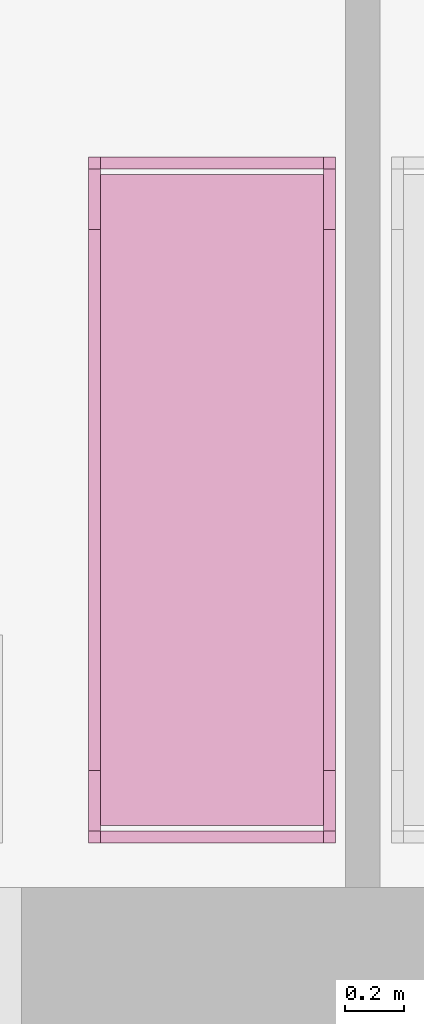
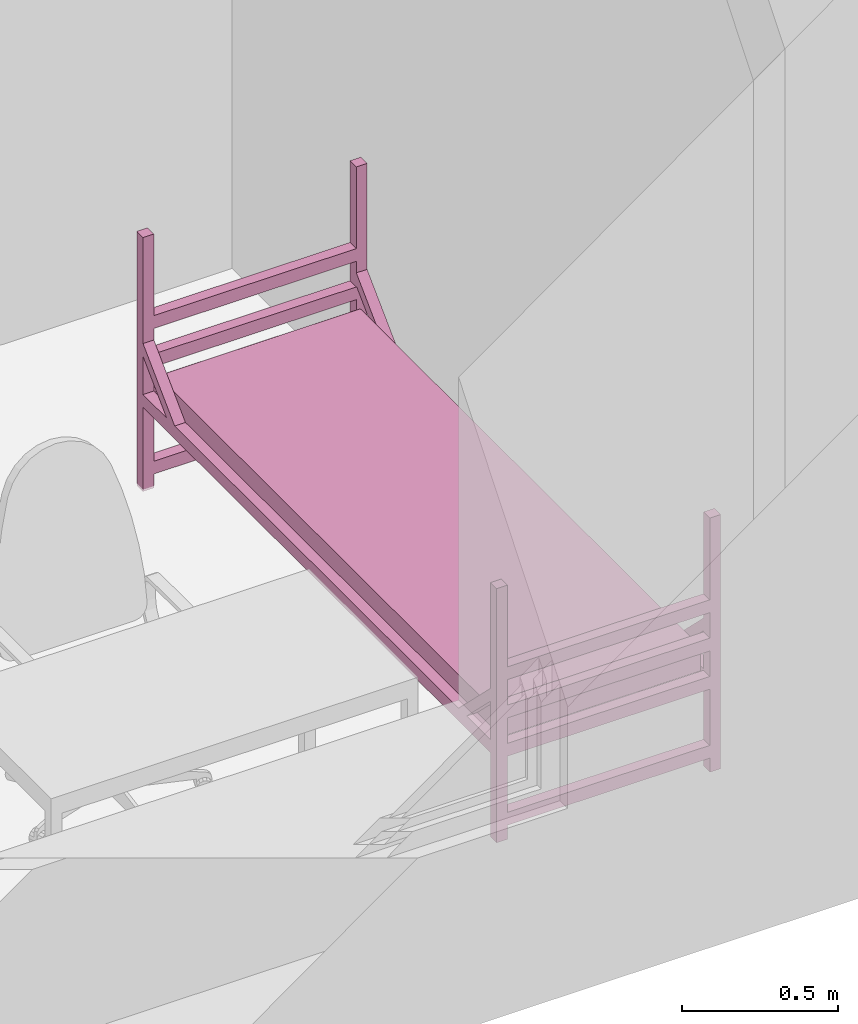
# One storey, part 29 of 46: 1 furnishing.
"""IFC2X3 building model written with IfcOpenShell, lengths in millimetres."""

from ifc_helpers import new_model, entity, si_unit, converted_unit, derived_unit, direction, frame, frame_2d, origin, place, context, subcontext, project, spatial, polyline, circle_curve, parameter, trimmed, segment, composite_curve, rectangle, outline, extrude, source, transform, mapped, material, type_object, type_shapes, element, save


model = new_model("IFC2X3")

# Units and contexts
model_context = context("Model", 3, precision=0.01, world=origin(), true_north=direction((6.12303176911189e-17, 1.0)))
body_context = subcontext(model_context, "Body", "Model", "MODEL_VIEW")
ifc_project = project(units=[si_unit("LENGTHUNIT", "METRE", prefix="MILLI"), si_unit("AREAUNIT", "SQUARE_METRE"), si_unit("VOLUMEUNIT", "CUBIC_METRE"), converted_unit("PLANEANGLEUNIT", "DEGREE", entity("IfcRatioMeasure", 0.0174532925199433), si_unit("PLANEANGLEUNIT", "RADIAN"), dimensions=[0, 0, 0, 0, 0, 0, 0]), si_unit("MASSUNIT", "GRAM", prefix="KILO"), derived_unit("MASSDENSITYUNIT", [(si_unit("MASSUNIT", "GRAM", prefix="KILO"), 1), (si_unit("LENGTHUNIT", "METRE"), -3)]), si_unit("TIMEUNIT", "SECOND"), si_unit("FREQUENCYUNIT", "HERTZ"), si_unit("THERMODYNAMICTEMPERATUREUNIT", "DEGREE_CELSIUS"), derived_unit("THERMALTRANSMITTANCEUNIT", [(si_unit("MASSUNIT", "GRAM", prefix="KILO"), 1), (si_unit("THERMODYNAMICTEMPERATUREUNIT", "KELVIN"), -1), (si_unit("TIMEUNIT", "SECOND"), -3)]), derived_unit("VOLUMETRICFLOWRATEUNIT", [(si_unit("LENGTHUNIT", "METRE"), 3), (si_unit("TIMEUNIT", "SECOND"), -1)]), si_unit("ELECTRICCURRENTUNIT", "AMPERE"), si_unit("ELECTRICVOLTAGEUNIT", "VOLT"), si_unit("POWERUNIT", "WATT"), si_unit("FORCEUNIT", "NEWTON", prefix="KILO"), si_unit("ILLUMINANCEUNIT", "LUX"), si_unit("LUMINOUSFLUXUNIT", "LUMEN"), si_unit("LUMINOUSINTENSITYUNIT", "CANDELA"), derived_unit("USERDEFINED", [(si_unit("MASSUNIT", "GRAM", prefix="KILO"), -1), (si_unit("LENGTHUNIT", "METRE"), -2), (si_unit("TIMEUNIT", "SECOND"), 3), (si_unit("LUMINOUSFLUXUNIT", "LUMEN"), 1)]), derived_unit("LINEARVELOCITYUNIT", [(si_unit("LENGTHUNIT", "METRE"), 1), (si_unit("TIMEUNIT", "SECOND"), -1)]), si_unit("PRESSUREUNIT", "PASCAL"), derived_unit("USERDEFINED", [(si_unit("LENGTHUNIT", "METRE"), -2), (si_unit("MASSUNIT", "GRAM", prefix="KILO"), 1), (si_unit("TIMEUNIT", "SECOND"), -2)]), derived_unit("LINEARFORCEUNIT", [(si_unit("MASSUNIT", "GRAM", prefix="KILO"), 1), (si_unit("LENGTHUNIT", "METRE"), 1), (si_unit("TIMEUNIT", "SECOND"), -2), (si_unit("LENGTHUNIT", "METRE"), -1)]), derived_unit("PLANARFORCEUNIT", [(si_unit("MASSUNIT", "GRAM", prefix="KILO"), 1), (si_unit("LENGTHUNIT", "METRE"), 1), (si_unit("TIMEUNIT", "SECOND"), -2), (si_unit("LENGTHUNIT", "METRE"), -2)])], contexts=[model_context])

# Site, building, storey, space
site_placement = place(None, origin())
site = spatial("IfcSite", under=ifc_project, at=site_placement, Name="Default", CompositionType="ELEMENT")
building_placement = place(site_placement, origin())
building = spatial("IfcBuilding", under=site, at=building_placement, Name="SMA ARH", CompositionType="ELEMENT")
storey_placement = place(building_placement, frame((0.0, 0.0, 9910.0)))
storey = spatial("IfcBuildingStorey", under=building, at=storey_placement, Name="4 Korrus", CompositionType="ELEMENT", Elevation=9909.9999999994)
space_placement = place(storey_placement, origin())
space = spatial("IfcSpace", under=storey, at=space_placement, Name="4-8", CompositionType="ELEMENT", InteriorOrExteriorSpace="INTERNAL")

# Furnishing
ifc_material = material(Name="Madrats")
furniture_type = type_object("IfcFurnitureType", Name="Kasarmu voodi ühekordne 2308x830:Kasarmu voodi ühekordne 2308x830", material=ifc_material)
shared_shape = source(origin(), body_context, "Body", "SweptSolid", [
    extrude(rectangle(XDim=39.9999999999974, YDim=750.000000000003, at=frame_2d((-1.35003119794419e-13, -2.8421709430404e-14), x_axis=(1.0, 0.0))), frame((1.68638457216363, -1226.7969571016, 55.0), z_axis=(0.0, 0.0, 1.0), x_axis=(0.0, -1.0, 0.0)), (0.0, 0.0, 1.0), 49.9999999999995),
    extrude(rectangle(XDim=39.9999999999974, YDim=750.000000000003, at=frame_2d((-1.35003119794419e-13, -2.8421709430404e-14), x_axis=(1.0, 0.0))), frame((1.68638457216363, -1226.7969571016, 325.0), z_axis=(0.0, 0.0, 1.0), x_axis=(0.0, -1.0, 0.0)), (0.0, 0.0, 1.0), 49.9999999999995),
    extrude(rectangle(XDim=39.9999999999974, YDim=750.000000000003, at=frame_2d((-1.35003119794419e-13, -2.8421709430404e-14), x_axis=(1.0, 0.0))), frame((1.68638457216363, -1226.7969571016, 475.0), z_axis=(0.0, 0.0, 1.0), x_axis=(0.0, -1.0, 0.0)), (0.0, 0.0, 1.0), 49.9999999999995),
    extrude(rectangle(XDim=39.9999999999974, YDim=750.000000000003, at=frame_2d((-1.35003119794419e-13, -2.8421709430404e-14), x_axis=(1.0, 0.0))), frame((1.68638457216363, -1226.7969571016, 625.0), z_axis=(0.0, 0.0, 1.0), x_axis=(0.0, -1.0, 0.0)), (0.0, 0.0, 1.0), 50.0000000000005),
    extrude(rectangle(XDim=39.9999999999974, YDim=750.000000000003, at=frame_2d((1.35003119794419e-13, -2.8421709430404e-14), x_axis=(1.0, 0.0))), frame((1.68638457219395, 1041.2030428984, 55.0), z_axis=(0.0, 0.0, 1.0), x_axis=(0.0, -1.0, 0.0)), (0.0, 0.0, 1.0), 50.0000000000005),
    extrude(rectangle(XDim=39.9999999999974, YDim=750.000000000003, at=frame_2d((1.35003119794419e-13, -2.8421709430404e-14), x_axis=(1.0, 0.0))), frame((1.68638457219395, 1041.2030428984, 325.0), z_axis=(0.0, 0.0, 1.0), x_axis=(0.0, -1.0, 0.0)), (0.0, 0.0, 1.0), 50.0000000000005),
    extrude(rectangle(XDim=39.9999999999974, YDim=750.000000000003, at=frame_2d((1.35003119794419e-13, -2.8421709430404e-14), x_axis=(1.0, 0.0))), frame((1.68638457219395, 1041.2030428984, 475.0), z_axis=(0.0, 0.0, 1.0), x_axis=(0.0, -1.0, 0.0)), (0.0, 0.0, 1.0), 50.0000000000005),
    extrude(rectangle(XDim=39.9999999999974, YDim=750.000000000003, at=frame_2d((1.35003119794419e-13, -2.8421709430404e-14), x_axis=(1.0, 0.0))), frame((1.68638457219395, 1041.2030428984, 625.0), z_axis=(0.0, 0.0, 1.0), x_axis=(0.0, -1.0, 0.0)), (0.0, 0.0, 1.0), 49.9999999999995),
    extrude(outline(composite_curve([segment(trimmed(circle_curve(frame_2d((1085.0, -40.0), x_axis=(1.0, 0.0)), 10.0), [parameter(270.0)], [parameter(0.0)], True, "PARAMETER"), True, "CONTINUOUS"), segment(polyline([(1095.0, -40.0), (1095.0, 40.0)]), True, "CONTINUOUS"), segment(trimmed(circle_curve(frame_2d((1085.0, 40.0), x_axis=(1.0, 0.0)), 10.0), [parameter(0.0)], [parameter(90.0000000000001)], True, "PARAMETER"), True, "CONTINUOUS"), segment(polyline([(1085.0, 50.0), (-1085.0, 50.0)]), True, "CONTINUOUS"), segment(trimmed(circle_curve(frame_2d((-1085.0, 40.0), x_axis=(1.0, 0.0)), 10.0), [parameter(90.0000000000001)], [parameter(180.0)], True, "PARAMETER"), True, "CONTINUOUS"), segment(polyline([(-1095.0, 40.0), (-1095.0, -40.0)]), True, "CONTINUOUS"), segment(trimmed(circle_curve(frame_2d((-1085.0, -40.0), x_axis=(1.0, 0.0)), 10.0), [parameter(180.0)], [parameter(270.0)], True, "PARAMETER"), True, "CONTINUOUS"), segment(polyline([(-1085.0, -50.0), (1085.0, -50.0)]), True, "CONTINUOUS")], self_intersect=False)), frame((-373.313615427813, -92.7969571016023, 405.0), z_axis=(1.0, 0.0, 0.0), x_axis=(0.0, -1.0, 0.0)), (0.0, 0.0, 1.0), 750.000000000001),
    extrude(outline(polyline([(-1114.0, -100.0), (1114.0, -100.0), (1114.0, -50.0), (961.59199141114, -50.0), (1114.0, 100.0), (1114.0, 150.0), (910.789321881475, -50.0), (-910.789321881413, -50.0), (-1114.0, 150.0), (-1114.0, 100.0), (-961.591991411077, -50.0), (-1114.0, -50.0), (-1114.0, -100.0)])), frame((-413.313615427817, -92.7969571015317, 430.0), z_axis=(1.0, 0.0, 0.0), x_axis=(0.0, 1.0, 0.0)), (0.0, 0.0, 1.0), 39.9999999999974),
    extrude(outline(polyline([(-1114.0, -100.0), (1114.0, -100.0), (1114.0, -50.0), (961.591991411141, -50.0), (1114.0, 100.0), (1114.0, 150.0), (910.789321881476, -50.0), (-910.789321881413, -50.0), (-1114.0, 150.0), (-1114.0, 100.0), (-961.591991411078, -50.0), (-1114.0, -50.0), (-1114.0, -100.0)])), frame((376.686384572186, -92.796957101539, 430.0), z_axis=(1.0, 0.0, 0.0), x_axis=(0.0, 1.0, 0.0)), (0.0, 0.0, 1.0), 39.9999999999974),
    extrude(rectangle(XDim=39.9999999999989, YDim=39.9999999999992, at=frame_2d((-6.75015598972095e-14, 0.0), x_axis=(1.0, 0.0))), frame((396.686384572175, -1226.79695710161, 0.0), z_axis=(0.0, 0.0, 1.0), x_axis=(0.0, 1.0, 0.0)), (0.0, 0.0, 1.0), 995.0),
    extrude(rectangle(XDim=39.9999999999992, YDim=39.9999999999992, at=frame_2d((-1.35003119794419e-13, 0.0), x_axis=(1.0, 0.0))), frame((396.686384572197, 1041.20304289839, 0.0), z_axis=(0.0, 0.0, 1.0), x_axis=(0.0, 1.0, 0.0)), (0.0, 0.0, 1.0), 995.0),
    extrude(rectangle(XDim=40.0000000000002, YDim=39.9999999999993, at=frame_2d((-1.35003119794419e-13, 0.0), x_axis=(1.0, 0.0))), frame((-393.313615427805, 1041.2030428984, 0.0), z_axis=(0.0, 0.0, 1.0), x_axis=(0.0, 1.0, 0.0)), (0.0, 0.0, 1.0), 995.0),
    extrude(rectangle(XDim=39.9999999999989, YDim=39.9999999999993, at=frame_2d((-6.75015598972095e-14, 0.0), x_axis=(1.0, 0.0))), frame((-393.313615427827, -1226.7969571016, 0.0), z_axis=(0.0, 0.0, 1.0), x_axis=(0.0, 1.0, 0.0)), (0.0, 0.0, 1.0), 995.0),
])
type_shapes(furniture_type, [shared_shape])
furnishing_placement = place(space_placement, frame((22820.3136154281, 1396.79695710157, 0.0)))
element("IfcFurnishingElement", 1, at=furnishing_placement, inside=space, type_object=furniture_type, material=ifc_material, Name="Kasarmu voodi ühekordne 2308x830:Kasarmu voodi ühekordne 2308x830", ObjectType="Kasarmu voodi ühekordne 2308x830:Kasarmu voodi ühekordne 2308x830", context=body_context, shape_type="MappedRepresentation", body=[
    mapped(shared_shape, transform((0.0, 0.0, 0.0), scale=1.0)),
])

save(model, "model.ifc")
